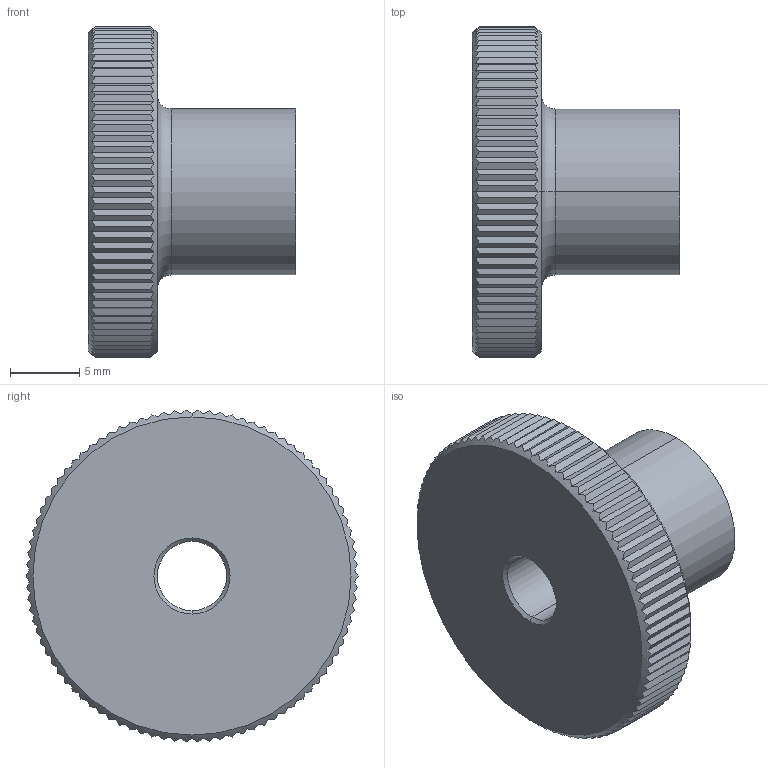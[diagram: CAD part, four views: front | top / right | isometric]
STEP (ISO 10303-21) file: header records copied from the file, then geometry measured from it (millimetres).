
FILE_DESCRIPTION (( 'STEP AP203' ), '1' );
FILE_NAME ('37100.W0006.step', '2015-11-25T13:24:38', ( 'User' ), ( '' ), 'SwSTEP 2.0', 'SolidWorks 2009', '' );
FILE_SCHEMA (( 'CONFIG_CONTROL_DESIGN' ));
Length unit declared in the file: millimetre
Products named in the file (1): 37100.W0006
Bounding box: 15 x 24 x 23.99 mm (x, y, z)
Volume: 3048.7 mm3; surface area: 1829.5 mm2
Topology: 1 solids, 1 shells, 197 faces, 572 edges, 378 vertices
Faces by surface type: plane 183, cone 8, cylinder 4, torus 2
Entity records: 6807 total; most frequent: CARTESIAN_POINT 2228, ORIENTED_EDGE 1144, DIRECTION 628, EDGE_CURVE 572, VERTEX_POINT 378, B_SPLINE_CURVE_WITH_KNOTS 360, AXIS2_PLACEMENT_3D 218, EDGE_LOOP 200
